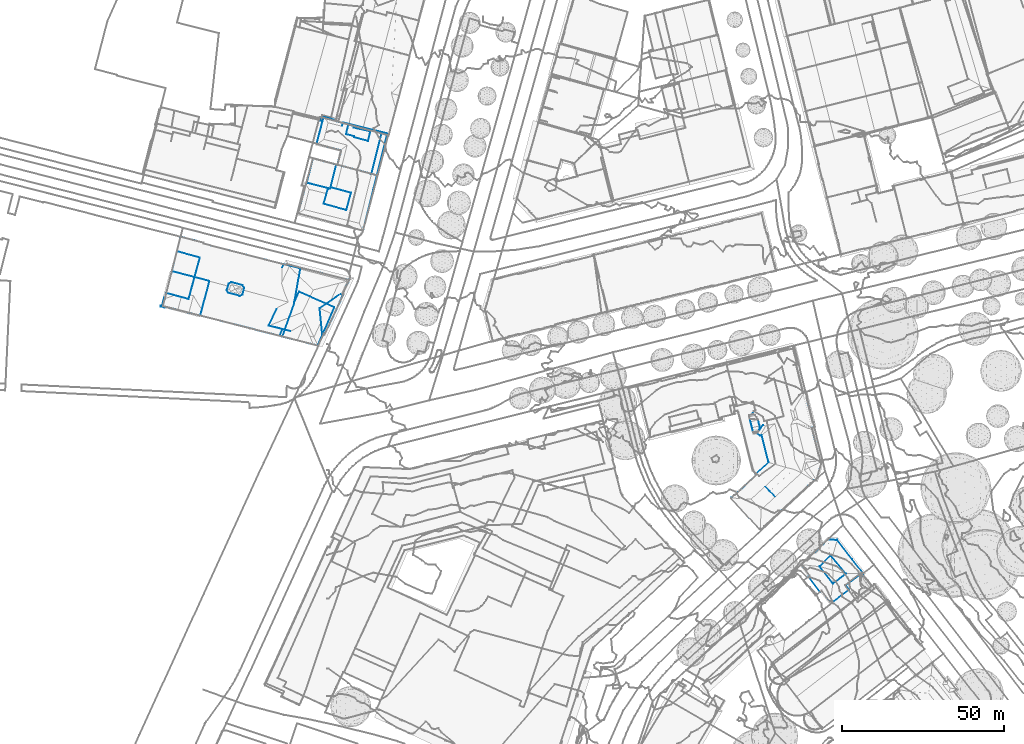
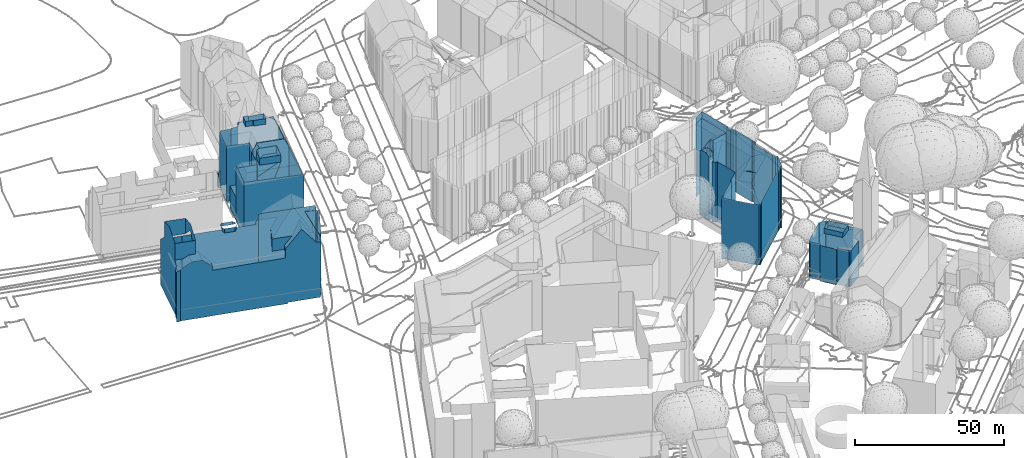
# Not in any storey, part 26 of 494: 5 walls.
"""IFC2X3 model written with IfcOpenShell, lengths in metres."""

from ifc_helpers import new_model, si_unit, frame, origin_with_axes, place, context, subcontext, project, faceted_brep, element, save


model = new_model("IFC2X3")

# Units and contexts
model_context = context("Model", 3, precision=1e-05, world=origin_with_axes())
body_context = subcontext(model_context, "Body", "Model", "MODEL_VIEW")
ifc_project = project(units=[si_unit("AREAUNIT", "SQUARE_METRE"), si_unit("LENGTHUNIT", "METRE")], contexts=[model_context])

# Walls
wall_1_placement = place(None, frame((124.1537320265, 278.7713160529, 533.7988), z_axis=(0.0, 0.0, 1.0), x_axis=(1.0, 0.0, 0.0)))
element("IfcWall", 1, at=wall_1_placement, Name="Wall 0", context=body_context, shape_type="Brep", body=[
    faceted_brep([(8.6400000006, 20.7793000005, 26.2145), (8.6400000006, 20.7793000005, 26.5365), (6.8839999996, 20.3486000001, 26.5365), (6.8839999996, 20.3486000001, 0.8999), (8.6400000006, 20.7793000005, 0.8999), (5.8379999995, 24.5194999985, 27.2494), (8.3839999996, 24.2577999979, 27.2494), (5.8379999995, 24.5194999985, 0.8999), (8.3839999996, 24.2577999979, 27.7623), (8.6110000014, 23.3515999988, 27.7623), (8.8500000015, 22.3935000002, 27.7623), (8.8500000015, 22.3935000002, 27.2444), (25.7060000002, 5.4472999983, 24.6966), (25.6669999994, 5.4101999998, 0.0), (25.7080000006, 5.4492000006, 0.0), (25.6680999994, 5.4111999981, 24.7236), (10.4050000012, -8.7324000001, 0.0), (10.4050000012, -8.7324000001, 24.5256), (9.2769999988, -9.7675999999, 24.5196), (10.3370000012, -8.6592000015, 0.0), (24.6689999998, 4.623999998, 0.0), (21.0810000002, 1.2987999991, 24.7846), (13.9200000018, -5.3388999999, 24.6896), (24.7369999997, 4.5517999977, 0.0), (24.7369999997, 4.5516999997, 24.7136), (24.6689999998, 4.623999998, 24.8316), (9.0230000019, -9.4922000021, 24.8956), (8.8770000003, -9.6279000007, 24.6596), (9.0230000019, -9.4922000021, 0.0), (8.8768999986, -9.6279999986, 0.0), (7.9499999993, 7.192400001, 24.9436), (7.6840000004, 7.4794999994, 24.4946), (7.6840000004, 7.4794999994, 0.0), (7.9499999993, 7.192400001, 0.0), (2.811999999, 2.442400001, 24.9996), (1.0989999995, 0.8583999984, 0.0), (1.0260000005, 0.9375, 24.8956), (1.0989999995, 0.8583999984, 25.0186), (11.6229999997, 11.0702999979, 0.0), (11.6229999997, 11.0702999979, 24.4946), (8.313000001, 20.2421999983, 25.1776), (9.8839999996, 22.6532999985, 0.0), (8.313000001, 20.2421999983, 0.0), (7.7589999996, 20.1035000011, 24.4947), (7.7589999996, 20.1035000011, 0.0), (8.9629999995, 19.3300999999, 24.4947), (8.9629999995, 19.3300999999, 0.0), (9.5139999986, 19.4697000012, 24.4947), (9.5139999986, 19.4697000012, 0.0), (23.6359999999, 31.1532999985, 0.0), (23.5590000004, 31.1347999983, 25.1276), (23.4990000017, 31.1191000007, 9.3641), (23.3920000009, 31.0936999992, 0.0), (23.3920999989, 31.0938000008, 25.3526), (27.6420000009, 11.7881000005, 12.3648), (27.6339999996, 11.817400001, 0.0), (27.6420000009, 11.7881000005, 18.5572), (27.6420000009, 11.7881999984, 6.1734), (27.6420000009, 11.7881999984, 0.0), (27.2969999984, 13.1669999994, 0.0), (27.6339999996, 11.8183999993, 24.7686), (25.8729999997, 5.6015999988, 0.0), (25.756000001, 5.4921999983, 24.8166), (25.7569999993, 5.4932000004, 0.0), (26.3920000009, 5.4472999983, 25.1006), (25.8729999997, 5.6015999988, 25.1016), (26.3920000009, 5.4472999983, 18.8252), (26.3920000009, 5.4472999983, 12.5498), (26.3920000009, 5.4472999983, 0.0), (16.3480000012, 25.2978000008, 30.2961), (13.4299999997, 36.9188999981, 30.2961), (16.3480000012, 25.2978000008, 0.0), (15.8280000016, 40.6669999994, 29.9172), (18.7740000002, 28.9307000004, 29.9171), (15.8280000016, 40.6669999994, 0.0), (11.8619999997, 37.8427999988, 30.2961), (11.8619999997, 37.8427999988, 0.0), (10.4750000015, 35.365199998, 29.9172), (10.4750000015, 35.365199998, 0.0), (13.4299999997, 36.9188999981, 0.0), (21.1400000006, 31.8506000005, 26.4205), (18.7740000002, 28.9307000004, 0.0), (22.2650000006, 32.7509999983, 0.0), (21.1400000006, 31.8506000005, 0.0), (22.2650000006, 32.7509999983, 24.8986), (10.324000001, 23.7841999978, 30.2961), (10.324000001, 23.7841999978, 0.0), (9.9919999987, 25.1123000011, 29.9171), (9.9919999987, 25.1123000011, 0.0), (9.8839999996, 22.6532999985, 29.9171), (8.6400000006, 20.7793000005, 0.0), (6.3269999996, 25.8104999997, 24.4947), (7.0700000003, 26.8691000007, 24.4947), (6.3269999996, 25.8104999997, 0.0), (6.8790000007, 25.9501999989, 25.1066), (6.8790000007, 25.9501999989, 0.0), (7.0700000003, 26.8691000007, 0.0), (7.4180000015, 25.6347999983, 26.1375), (7.4180000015, 25.6347999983, 0.0), (7.9239999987, 25.0429999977, 27.1874), (8.3839999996, 24.2577999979, 0.8999), (7.9239999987, 25.0429999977, 0.0), (8.3839999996, 24.2577999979, 0.0), (8.6090000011, 23.3574000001, 27.7623), (8.8220000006, 21.4697000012, 27.2004), (8.8220000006, 21.4697000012, 0.8999), (8.8500000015, 22.3935000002, 0.8999), (8.8220000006, 21.4697000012, 0.0), (13.6950000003, 0.4580000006, 29.9171), (12.0219999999, 2.2080000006, 30.2961), (12.0219999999, 2.2080000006, 29.9131), (10.5749999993, 3.7197000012, 29.9171), (9.2769999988, -9.7675999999, 0.0), (9.0610000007, -9.5331999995, 24.8946), (0.0, 0.0, 24.7636), (0.0, 0.0, 0.0), (1.0260999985, 0.9375, 12.3858), (0.0830000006, 0.0762000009, 24.8956), (0.4059999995, 0.371100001, 0.0), (1.0260000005, 0.9375, 0.0), (25.1449999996, 21.3720999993, 24.8716), (27.1799999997, 13.1367000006, 24.9086), (27.1799999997, 13.1367000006, 0.0), (25.061999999, 21.7089999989, 25.7385), (25.061999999, 21.7089999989, 0.0), (25.1449999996, 21.3720999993, 0.0), (25.9250000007, 21.9228999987, 0.0), (25.9250000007, 21.9228000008, 24.8976), (25.3029999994, 21.7685999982, 0.0), (25.3029999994, 21.7685999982, 25.7355), (25.5379999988, 23.4844000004, 25.0536), (25.8590000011, 22.1904000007, 25.0586), (25.5379999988, 23.4844000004, 0.0), (25.8590000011, 22.1904000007, 0.0), (25.2870000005, 23.4228000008, 25.3906), (25.2870000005, 23.4228999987, 0.0), (25.0020000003, 24.5751999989, 25.3856), (23.6359999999, 31.1532999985, 12.3488), (23.25, 32.7100000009, 0.0), (23.25, 32.7100000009, 24.9436), (23.2699999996, 32.6308999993, 0.0), (23.2699999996, 32.6308999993, 25.0196), (23.6359999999, 31.1532999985, 25.0256), (28.050999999, 11.6074000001, 0.0), (28.194000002, 11.5429999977, 0.0), (28.050999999, 11.6074000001, 25.1046), (28.194000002, 11.5429999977, 25.1116), (27.6830000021, 11.7705000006, 24.6986), (27.6420000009, 11.7881000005, 24.7496), (27.2969000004, 13.1669999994, 24.7666), (26.4330000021, 5.5878999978, 25.4005), (28.1480000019, 11.3887000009, 25.4025), (26.4330000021, 5.5878999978, 0.0), (28.1480000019, 11.3887000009, 0.0), (22.3310000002, 32.4833999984, 0.0), (22.3310000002, 32.4833999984, 25.5996), (22.6669999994, 32.566399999, 25.6035), (8.8500000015, 22.3935000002, 0.0), (8.6090000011, 23.3544999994, 0.0), (6.5179999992, 21.808600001, 0.8999), (6.7340000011, 20.9452999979, 0.8999), (6.0500000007, 23.6708999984, 0.8999), (6.7340000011, 20.9452999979, 27.2494), (6.5179999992, 21.808600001, 27.7623), (6.0500000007, 23.6708999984, 27.7623), (10.3370000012, -8.6592000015, 24.6426)], [[[0, 1, 2]], [[0, 3, 4]], [[5, 6, 7]], [[8, 6, 5]], [[9, 10, 11]], [[12, 13, 14]], [[12, 15, 13]], [[16, 17, 18]], [[17, 16, 19]], [[19, 20, 21]], [[22, 19, 21]], [[23, 24, 20]], [[24, 25, 20]], [[15, 24, 13]], [[26, 27, 28]], [[27, 29, 28]], [[30, 31, 32]], [[30, 32, 33]], [[34, 30, 35]], [[36, 37, 35]], [[38, 31, 39]], [[38, 32, 31]], [[40, 41, 42]], [[43, 42, 44]], [[45, 43, 46]], [[39, 47, 38]], [[47, 45, 48]], [[49, 50, 51]], [[52, 51, 53]], [[51, 52, 49]], [[54, 55, 56]], [[57, 58, 55]], [[59, 60, 55]], [[61, 62, 63]], [[64, 65, 66]], [[67, 66, 65]], [[68, 67, 61]], [[63, 12, 14]], [[69, 70, 71]], [[72, 73, 74]], [[75, 72, 76]], [[77, 76, 78]], [[70, 77, 79]], [[73, 80, 81]], [[80, 82, 83]], [[84, 82, 80]], [[85, 69, 86]], [[87, 86, 88]], [[89, 0, 41]], [[4, 90, 41]], [[91, 92, 93]], [[94, 91, 95]], [[92, 88, 96]], [[97, 94, 98]], [[6, 99, 100]], [[100, 101, 102]], [[99, 97, 101]], [[8, 103, 6]], [[104, 1, 0]], [[10, 104, 11]], [[105, 106, 107]], [[90, 4, 105]], [[105, 107, 90]], [[108, 109, 110]], [[111, 110, 109]], [[112, 18, 26]], [[26, 28, 112]], [[18, 113, 26]], [[29, 27, 114]], [[114, 115, 29]], [[116, 114, 117]], [[114, 116, 115]], [[117, 36, 116]], [[118, 116, 119]], [[118, 115, 116]], [[120, 121, 122]], [[123, 120, 124]], [[125, 124, 120]], [[122, 125, 120]], [[126, 127, 128]], [[128, 127, 129]], [[124, 129, 123]], [[129, 124, 128]], [[130, 131, 127]], [[130, 127, 132]], [[133, 132, 127]], [[126, 133, 127]], [[134, 130, 132]], [[132, 135, 134]], [[136, 52, 53]], [[136, 135, 52]], [[134, 135, 136]], [[137, 138, 139]], [[137, 140, 138]], [[139, 141, 137]], [[137, 141, 142]], [[49, 140, 137]], [[143, 57, 144]], [[143, 58, 57]], [[57, 54, 144]], [[56, 145, 146]], [[56, 147, 145]], [[56, 144, 54]], [[147, 56, 148]], [[56, 146, 144]], [[149, 122, 121]], [[59, 122, 149]], [[150, 64, 151]], [[151, 66, 146]], [[66, 151, 64]], [[146, 66, 67]], [[67, 68, 152]], [[67, 153, 144]], [[153, 67, 152]], [[67, 144, 146]], [[154, 155, 156]], [[138, 154, 156]], [[138, 156, 139]], [[157, 106, 100]], [[158, 100, 102]], [[100, 158, 157]], [[159, 160, 2]], [[161, 159, 2]], [[7, 161, 2]], [[160, 3, 2]], [[2, 162, 5]], [[163, 164, 5]], [[163, 5, 162]], [[2, 5, 7]], [[2, 3, 0]], [[6, 100, 7]], [[18, 112, 16]], [[165, 17, 19]], [[20, 25, 21]], [[165, 19, 22]], [[24, 23, 13]], [[34, 35, 37]], [[30, 33, 35]], [[116, 36, 35]], [[35, 119, 116]], [[89, 41, 40]], [[40, 42, 43]], [[43, 44, 46]], [[47, 48, 38]], [[45, 46, 48]], [[50, 53, 51]], [[137, 142, 50]], [[50, 49, 137]], [[60, 148, 55]], [[55, 148, 56]], [[54, 57, 55]], [[60, 59, 149]], [[65, 62, 61]], [[65, 61, 67]], [[12, 63, 62]], [[70, 79, 71]], [[73, 81, 74]], [[72, 74, 76]], [[75, 76, 77]], [[77, 78, 79]], [[80, 83, 81]], [[82, 84, 154]], [[84, 155, 154]], [[69, 71, 86]], [[85, 86, 87]], [[0, 4, 41]], [[92, 96, 93]], [[91, 93, 95]], [[87, 88, 92]], [[94, 95, 98]], [[99, 101, 100]], [[97, 98, 101]], [[106, 157, 107]]]),
])
wall_2_placement = place(None, frame((145.991732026, 258.2215160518, 530.886), z_axis=(0.0, 0.0, 1.0), x_axis=(1.0, 0.0, 0.0)))
element("IfcWall", 2, at=wall_2_placement, Name="Wall 0", context=body_context, shape_type="Brep", body=[
    faceted_brep([(13.7259999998, -2.8378999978, 18.4752), (13.0780000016, -3.3262000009, 16.3994), (13.7259999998, -2.8378999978, 16.3534), (9.7340000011, -5.8476999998, 18.4752), (10.2470000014, -5.4609000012, 16.4014), (9.7340000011, -5.8476999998, 16.3984), (5.569000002, -0.5507999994, 18.4752), (6.2950000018, 0.1561999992, 16.3314), (5.569000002, -0.5507999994, 16.3374), (9.0309999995, 2.822300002, 18.4752), (8.743999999, 2.5430000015, 16.3024), (9.0309999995, 2.822300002, 16.2155), (9.6840000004, -5.7841999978, 16.4304), (6.2820000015, -1.4580000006, 16.3844), (5.6420000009, -0.6435999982, 16.3794), (9.4670000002, 2.2959000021, 16.4654), (12.8000000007, -1.7216999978, 16.4294), (9.1350000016, 2.697300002, 16.2485), (13.6390000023, -2.7324000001, 16.4104), (0.2190000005, -0.3838, 14.7896), (0.2950000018, -0.3125, 0.0), (0.2190000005, -0.3838, 0.0), (2.5810000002, -3.4189999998, 14.8016), (2.5810000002, -3.4189999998, 0.0), (2.1710000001, -3.7373000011, 0.0), (2.1710000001, -3.7373000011, 14.6026), (5.7950000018, -8.4600000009, 14.6036), (5.7950000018, -8.4600000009, 0.0), (6.2320000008, -8.120099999, 4.4236), (5.9680000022, -8.3251999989, 4.5666), (6.2320000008, -8.120099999, 14.8166), (6.2320000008, -8.120099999, 10.517), (6.2320000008, -8.120099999, 0.0), (0.0, 0.0, 3.6907), (0.2950000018, -0.3125, 14.8296), (0.0, 0.0, 0.0), (8.8980000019, -11.5449000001, 11.0929), (9.1539999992, -11.3466999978, 14.7946), (8.8980000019, -11.5449000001, 14.7916), (8.8980000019, -11.5449000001, 3.6956), (9.1539999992, -11.3466999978, 0.0), (8.8980000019, -11.5449000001, 0.0), (9.443, -11.7188000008, 0.0), (9.443, -11.7188000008, 14.6096), (14.557, -7.8554999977, 14.6396), (14.557, -7.8554999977, 0.0), (14.8000000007, -7.7851999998, 14.6056), (14.8000000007, -7.7851999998, 0.0), (13.7109999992, -6.4257999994, 15.2845), (13.7109999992, -6.4257999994, 0.0), (18.7769999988, -2.9628999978, 0.0), (18.7769999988, -2.9628999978, 10.723), (19.001000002, -3.2509999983, 3.9486), (19.1130000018, -3.3955000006, 14.5476), (19.1130000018, -3.3955000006, 0.0), (18.9869999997, -3.5205000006, 14.5446), (18.5789999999, -2.7753999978, 0.0), (18.9869999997, -3.5205000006, 0.0), (18.5789999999, -2.7753999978, 14.9356), (10.9620000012, 7.6942999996, 14.7736), (10.9790000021, 7.6709000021, 3.6957), (10.9620000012, 7.6942999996, 0.0), (10.8040000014, 7.5713, 14.8126), (10.8040000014, 7.5713, 0.0), (8.5329999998, 7.7754000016, 0.0), (8.8370000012, -11.4657999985, 14.8316), (8.4140000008, -10.9228999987, 14.8266), (19.0830000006, -2.7245999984, 0.0), (19.0830000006, -2.7245999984, 14.7816), (19.057, -2.745099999, 14.7936), (18.7769999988, -2.9628999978, 14.8066), (0.0, 0.0, 14.8126), (0.0500000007, 0.0469000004, 14.8386), (0.0, 0.0, 11.1059), (7.8339999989, 7.3916000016, 0.0), (8.3960000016, 7.9209000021, 7.3663), (8.3960000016, 7.9209000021, 11.069), (7.8339999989, 7.3916000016, 14.8386), (8.1720000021, 7.7098999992, 14.8376), (8.3960000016, 7.9209000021, 14.7716), (8.3960000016, 7.9209000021, 0.0), (10.9800000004, 7.6709000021, 11.084), (10.9800000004, 7.6699000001, 14.7796), (11.4350000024, 7.0879000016, 14.8096), (15.5980000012, 1.746100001, 0.0), (11.0199999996, 7.6191000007, 14.8066), (15.5980000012, 1.746100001, 14.7896), (11.4350000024, 7.0879000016, 0.0), (8.5329999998, 7.7754000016, 14.8096)], [[[0, 1, 2]], [[1, 0, 3]], [[4, 3, 5]], [[3, 4, 1]], [[6, 7, 8]], [[7, 6, 9]], [[10, 9, 11]], [[9, 10, 7]], [[3, 12, 5]], [[12, 3, 13]], [[13, 6, 14]], [[6, 13, 3]], [[8, 14, 6]], [[9, 15, 11]], [[15, 9, 16]], [[17, 11, 15]], [[16, 0, 18]], [[0, 16, 9]], [[2, 18, 0]], [[19, 20, 21]], [[22, 19, 23]], [[19, 21, 23]], [[24, 25, 22]], [[22, 23, 24]], [[26, 25, 27]], [[27, 25, 24]], [[28, 26, 29]], [[30, 26, 31]], [[32, 28, 29]], [[27, 29, 26]], [[29, 27, 32]], [[33, 20, 34]], [[20, 33, 35]], [[36, 37, 38]], [[39, 40, 36]], [[39, 41, 40]], [[42, 43, 40]], [[44, 42, 45]], [[42, 44, 43]], [[46, 45, 47]], [[48, 46, 49]], [[50, 51, 52]], [[53, 54, 52]], [[52, 54, 50]], [[55, 56, 57]], [[54, 53, 55]], [[57, 54, 55]], [[58, 49, 56]], [[59, 60, 61]], [[62, 61, 63]], [[62, 63, 64]], [[38, 65, 36]], [[39, 36, 31]], [[66, 36, 65]], [[66, 30, 31]], [[39, 28, 41]], [[39, 31, 28]], [[28, 32, 41]], [[36, 66, 31]], [[50, 67, 51]], [[68, 69, 51]], [[70, 51, 69]], [[68, 51, 67]], [[71, 72, 73]], [[35, 33, 74]], [[75, 33, 73]], [[76, 73, 72]], [[77, 78, 79]], [[79, 76, 77]], [[76, 75, 73]], [[74, 33, 75]], [[74, 75, 80]], [[72, 77, 76]], [[81, 82, 83]], [[84, 60, 81]], [[82, 85, 83]], [[86, 68, 84]], [[84, 81, 86]], [[61, 60, 87]], [[87, 60, 84]], [[68, 67, 84]], [[81, 83, 86]], [[19, 34, 20]], [[31, 26, 28]], [[34, 73, 33]], [[71, 73, 34]], [[40, 37, 36]], [[37, 40, 43]], [[44, 45, 46]], [[46, 47, 49]], [[70, 53, 51]], [[51, 53, 52]], [[58, 56, 55]], [[48, 49, 58]], [[59, 81, 60]], [[82, 81, 59]], [[59, 61, 62]], [[64, 88, 62]], [[76, 88, 64]], [[88, 76, 79]], [[75, 76, 64]], [[64, 80, 75]]]),
])
wall_3_placement = place(None, frame((-52.3232679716, 338.0819160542, 533.653), z_axis=(0.0, 0.0, 1.0), x_axis=(1.0, 0.0, 0.0)))
element("IfcWall", 3, at=wall_3_placement, Name="Wall 0", context=body_context, shape_type="Brep", body=[
    faceted_brep([(25.9210000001, 5.7498999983, 28.2473), (25.7249999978, 5.0252999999, 28.2463), (25.9210000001, 5.7498999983, 27.5864), (25.3789999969, 6.557599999, 28.2473), (25.3789999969, 6.557599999, 27.0214), (6.2289999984, 21.5037999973, 18.6293), (7.8369999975, 21.0936999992, 18.6153), (6.2289999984, 21.5037999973, 13.9847), (43.2639999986, 11.7244999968, 1.1769), (41.4179999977, 1.3250999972, 1.1769), (43.2639999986, 11.7244999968, 0.051), (41.4179999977, 1.3250999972, 0.5519), (41.3399999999, 0.8846999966, 0.5519), (41.3399999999, 0.8846999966, 0.051), (39.0649999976, 12.8387999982, 1.1769), (39.0649999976, 12.8387999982, 0.051), (39.0429999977, 12.7547999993, 0.051), (13.3539999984, 19.6571999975, 0.051), (13.3539999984, 19.6571999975, 18.5933), (13.2869999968, 19.3934999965, 0.051), (13.2869999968, 19.3934999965, 18.8322), (10.4239999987, 20.4334999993, 18.5933), (10.4239999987, 20.4334999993, 0.051), (21.8259999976, 7.5194999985, 28.2473), (21.8259999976, 7.5194999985, 27.0044), (1.1609999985, 2.6434999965, 0.0), (1.1609999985, 2.6434999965, 20.5351), (1.4229999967, 2.5770999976, 0.0), (1.4229999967, 2.5770999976, 10.345), (1.4229999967, 2.5770999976, 15.5165), (0.5379999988, 0.1307999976, 20.5591), (0.5379999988, 0.1307999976, 0.0), (0.0659999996, 0.2469999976, 0.0), (0.0659999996, 0.2469999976, 20.2811), (0.0, 0.0, 20.2811), (0.0, 0.0, 0.0), (1.2339999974, -0.3331000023, 21.011), (1.2339999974, -0.3331000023, 0.0), (1.2449999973, -0.0499000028, 15.7225), (1.2449999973, -0.0499000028, 20.976), (1.2449999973, -0.0499000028, 10.47), (1.2449999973, -0.0499000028, 0.0), (12.3039999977, -2.8438000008, 18.6792), (12.7779999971, -1.0557000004, 20.2811), (12.2969999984, -2.8692000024, 20.2811), (12.2960000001, -2.8712000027, 18.6522), (12.2960000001, -2.8712000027, 0.051), (15.1349999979, 7.8338999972, 0.0), (15.1349999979, 7.8338999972, 0.051), (5.0939999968, 17.0340999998, 28.9983), (12.175999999, 15.1170999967, 22.7199), (5.0939999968, 17.0340999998, 22.6869), (8.6959999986, 2.2694999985, 28.9982), (6.3899999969, 2.8944999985, 23.3848), (8.6959999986, 2.2694999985, 23.3848), (1.818, 4.1336999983, 28.9983), (4.3549999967, 3.4461999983, 22.1809), (1.818, 4.1336999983, 22.1929), (25.3599999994, 3.677699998, 28.2473), (24.5409999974, 3.2498999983, 28.2473), (25.3599999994, 3.677699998, 27.0374), (20.9469999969, 4.2049999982, 26.4985), (24.5409999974, 3.2498999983, 26.4975), (42.8319999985, 4.5037999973, 1.1769), (53.7879999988, -0.2413000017, 1.1769), (53.7879999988, -0.2413000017, 0.5519), (48.6349999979, -12.1417000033, 1.1769), (57.3829999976, 5.9461999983, 22.3178), (58.4109999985, 8.120099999, 1.1769), (58.4109999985, 8.120099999, 22.2489), (56.3909999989, 3.8485999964, 1.1769), (56.3909999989, 3.8485999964, 22.3838), (58.3759999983, 8.128899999, 17.0684), (58.3827999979, 8.1268999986, 1.1769), (58.3640000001, 8.1317999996, 22.3698), (39.117999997, 13.0457999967, 16.4264), (58.3640000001, 8.1317999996, 6.4754), (50.5529999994, -8.4932000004, 1.1769), (49.4579999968, -10.8018000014, 22.8588), (48.8029999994, -12.1846000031, 6.6033), (48.8029999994, -12.1846000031, 17.4743), (48.8029999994, -12.1846000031, 22.9068), (48.8029999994, -12.1846000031, 12.0418), (48.8029999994, -12.1846000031, 1.1769), (37.7029999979, -9.3536000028, 0.051), (37.7029999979, -9.3536000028, 0.5519), (36.7739999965, -9.1153000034, 18.8612), (36.7739999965, -9.1153000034, 22.5208), (37.7039999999, -7.0235000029, 20.819), (37.7039999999, -7.0235000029, 22.5488), (20.9469999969, 4.2049999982, 28.2473), (20.5059999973, 4.9930999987, 27.0604), (20.5059999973, 4.9930999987, 28.2473), (20.8640000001, 6.3143999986, 28.2463), (21.0669999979, 7.0662999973, 28.2473), (21.0669999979, 7.0662999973, 27.5604), (3.5389999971, 10.9090999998, 0.0), (3.5389999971, 10.9090999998, 0.051), (10.4619999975, 8.7899999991, 31.225), (10.5339999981, 9.0535999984, 28.2463), (12.175999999, 15.1170999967, 28.9983), (9.0659999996, 3.6356999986, 23.3848), (42.8319999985, 4.5037999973, 0.5519), (3.4809999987, 10.6805999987, 31.225), (1.3909999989, 2.4520999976, 20.69), (1.4229999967, 2.5770999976, 20.689), (6.2289999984, 21.5037999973, 9.3401), (6.2289999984, 21.5037999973, 0.051), (42.2589999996, -10.5167000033, 29.5432), (47.1309999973, -11.7579000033, 23.3067), (48.060999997, -11.9952000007, 23.1947), (37.7029999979, -9.3536000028, 18.8682), (31.6529999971, -7.8106000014, 18.8172), (48.7039999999, -12.1592000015, 23.1648), (48.7039999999, -12.1592000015, 1.1769), (42.2589999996, -10.5167000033, 0.5519), (8.7599999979, -1.9669000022, 23.3848), (5.3329999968, -1.0928000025, 23.3848), (8.7599999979, -1.9669000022, 0.0), (5.3329999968, -1.0928000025, 0.0), (21.5749999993, -5.2383000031, 18.7312), (48.6349999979, -12.1417000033, 0.5519), (12.2969999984, -2.8692000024, 0.0), (38.0779999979, 13.0037999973, 19.6121), (38.561999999, 12.8787999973, 20.649), (38.0779999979, 13.0037999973, 18.6762), (50.5529999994, -8.4932000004, 20.233), (50.5529999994, -8.4932000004, 24.0107), (50.4100000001, -8.7950000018, 22.7898), (50.4100000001, -8.7950000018, 23.7887), (50.8229999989, -8.6231000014, 1.1769), (39.117999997, 13.0457999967, 21.5609), (39.5859999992, 12.9266999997, 22.5638), (39.117999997, 13.0457999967, 6.1844), (39.117999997, 13.0457999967, 1.1769), (39.5859999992, 12.9266999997, 1.1769), (53.6739999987, -2.5801000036, 28.4053), (53.4799999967, -2.9932000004, 28.1063), (53.8049999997, -2.3028000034, 28.1913), (54.5039999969, -0.822300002, 27.0314), (54.5039999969, -0.822300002, 21.7809), (52.2799999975, -5.5352000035, 21.9189), (50.8229999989, -8.6231000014, 23.9907), (39.0429999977, 12.7547999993, 21.6799), (54.8989999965, 0.0155999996, 15.7775), (55.1939999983, 0.6405999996, 21.7379), (56.6509999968, 3.7284999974, 21.6479), (55.1939999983, 0.6405999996, 1.1769), (56.6509999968, 3.7284999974, 1.1769), (37.6169999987, 12.0243999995, 19.6121), (33.4780000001, -5.9571000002, 25.8345), (36.0079999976, -0.5821000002, 25.8345), (33.4780000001, -5.9571000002, 20.774), (56.3699999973, 3.4090999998, 21.9609), (56.3699999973, 3.4090999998, 23.7627), (55.8249999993, 3.6629999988, 23.5067), (55.5729999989, 3.7811999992, 23.8117), (50.1569999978, -8.6768000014, 23.5067), (50.0409999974, -8.6231000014, 23.8127), (50.0409999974, -8.6231000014, 23.6467), (49.2419999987, -0.5303000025, 28.2263), (49.2419999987, -0.5303000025, 28.4053), (52.6229999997, 1.7782999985, 25.8345), (55.3269999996, 3.6229999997, 23.9847), (49.6529999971, -4.6895000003, 25.8345), (40.2739999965, -7.6710000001, 25.8345), (8.5859999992, 20.9032999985, 0.051)], [[[0, 1, 2]], [[3, 2, 4]], [[5, 6, 7]], [[8, 9, 10]], [[10, 9, 11]], [[11, 12, 13]], [[11, 13, 10]], [[14, 10, 15]], [[10, 14, 8]], [[15, 16, 14]], [[17, 18, 19]], [[20, 19, 18]], [[21, 18, 22]], [[22, 18, 17]], [[23, 4, 24]], [[25, 26, 27]], [[28, 26, 29]], [[30, 25, 31]], [[32, 33, 31]], [[30, 31, 33]], [[34, 32, 35]], [[36, 34, 37]], [[34, 35, 37]], [[37, 38, 39]], [[40, 37, 41]], [[36, 37, 39]], [[42, 43, 44]], [[44, 45, 42]], [[46, 47, 48]], [[49, 50, 51]], [[52, 53, 54]], [[53, 52, 55]], [[56, 55, 57]], [[55, 56, 53]], [[58, 59, 60]], [[59, 61, 62]], [[63, 64, 65]], [[64, 66, 65]], [[67, 68, 69]], [[67, 70, 68]], [[67, 71, 70]], [[72, 69, 73]], [[74, 69, 72]], [[75, 72, 76]], [[69, 68, 73]], [[77, 78, 79]], [[80, 78, 81]], [[82, 78, 80]], [[79, 83, 77]], [[13, 12, 84]], [[85, 84, 12]], [[86, 87, 88]], [[89, 88, 87]], [[1, 58, 60]], [[90, 91, 61]], [[92, 93, 91]], [[93, 94, 95]], [[95, 94, 23]], [[23, 24, 95]], [[96, 48, 47]], [[48, 96, 97]], [[98, 99, 100]], [[50, 100, 99]], [[99, 52, 101]], [[52, 99, 98]], [[54, 101, 52]], [[11, 9, 102]], [[63, 102, 9]], [[55, 103, 57]], [[29, 57, 51]], [[103, 51, 57]], [[104, 57, 105]], [[57, 29, 105]], [[28, 29, 7]], [[49, 51, 103]], [[51, 5, 7]], [[106, 97, 28]], [[28, 7, 106]], [[97, 106, 107]], [[27, 28, 97]], [[97, 96, 27]], [[7, 29, 51]], [[108, 87, 109]], [[109, 80, 110]], [[109, 87, 111]], [[111, 85, 82]], [[112, 85, 111]], [[86, 111, 87]], [[80, 109, 111]], [[113, 110, 81]], [[81, 110, 80]], [[82, 80, 111]], [[79, 66, 114]], [[115, 79, 82]], [[114, 83, 79]], [[115, 66, 79]], [[116, 117, 45]], [[45, 44, 116]], [[117, 38, 45]], [[39, 38, 117]], [[45, 40, 118]], [[38, 40, 45]], [[119, 40, 41]], [[85, 115, 82]], [[85, 120, 46]], [[121, 66, 115]], [[112, 120, 85]], [[46, 120, 45]], [[46, 84, 85]], [[122, 46, 118]], [[45, 118, 46]], [[40, 119, 118]], [[123, 124, 125]], [[126, 127, 128]], [[128, 127, 129]], [[127, 126, 130]], [[131, 132, 75]], [[75, 76, 133]], [[134, 133, 135]], [[132, 72, 75]], [[135, 76, 73]], [[135, 133, 76]], [[72, 132, 74]], [[136, 137, 138]], [[138, 137, 139]], [[139, 137, 140]], [[137, 141, 140]], [[141, 142, 130]], [[142, 141, 137]], [[20, 16, 19]], [[125, 16, 20]], [[124, 143, 16]], [[125, 124, 16]], [[126, 77, 130]], [[130, 144, 141]], [[145, 140, 144]], [[130, 146, 144]], [[141, 144, 140]], [[145, 144, 146]], [[147, 148, 146]], [[146, 130, 147]], [[16, 143, 131]], [[75, 16, 131]], [[133, 14, 75]], [[133, 134, 14]], [[149, 123, 125]], [[150, 151, 152]], [[153, 154, 139]], [[139, 140, 153]], [[155, 156, 154]], [[154, 153, 155]], [[129, 157, 128]], [[158, 159, 157]], [[158, 157, 129]], [[160, 161, 162]], [[163, 162, 161]], [[159, 158, 164]], [[164, 161, 160]], [[161, 164, 158]], [[89, 165, 150]], [[89, 152, 88]], [[152, 89, 150]], [[0, 2, 3]], [[106, 166, 107]], [[6, 106, 7]], [[6, 166, 106]], [[166, 6, 21]], [[166, 21, 22]], [[3, 4, 23]], [[26, 105, 29]], [[27, 26, 28]], [[26, 25, 30]], [[33, 32, 34]], [[40, 38, 37]], [[122, 47, 46]], [[100, 50, 49]], [[59, 62, 60]], [[90, 61, 59]], [[65, 102, 63]], [[66, 121, 65]], [[71, 148, 70]], [[148, 71, 146]], [[72, 73, 76]], [[78, 126, 128]], [[77, 126, 78]], [[79, 78, 82]], [[92, 91, 90]], [[130, 142, 127]], [[16, 75, 14]]]),
])
wall_4_placement = place(None, frame((-4.0472679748, 388.3377160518, 535.5509), z_axis=(0.0, 0.0, 1.0), x_axis=(1.0, 0.0, 0.0)))
element("IfcWall", 4, at=wall_4_placement, Name="Wall 0", context=body_context, shape_type="Brep", body=[
    faceted_brep([(8.0990000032, 6.4404000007, 23.7748), (7.870000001, 5.5166000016, 25.4786), (8.1500000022, 6.6464999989, 25.4786), (8.0990000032, 6.4404000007, 15.9275), (8.1500000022, 6.6464999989, 0.0001), (8.0990000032, 6.4404000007, 0.911), (8.0990000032, 6.4404000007, 0.0001), (1.1340000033, 8.3192999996, 7.0344), (2.1300000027, 8.0498000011, 7.0344), (1.1340000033, 8.3192999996, 0.819), (1.0980000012, 7.2334000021, 7.0344), (1.0980000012, 7.2334000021, 0.819), (1.8550000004, 7.0078000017, 7.0344), (1.8550000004, 7.0078000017, 0.819), (21.8859999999, 3.2362999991, 21.995), (18.6650000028, -9.7353000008, 21.9948), (21.8859999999, 3.2362999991, 0.0001), (20.1870000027, 3.6581999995, 25.4786), (16.9740000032, -9.2811999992, 25.4785), (20.1870000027, 3.6581999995, 25.2956), (6.7820000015, -5.3671999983, 8.4951), (6.4869999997, -6.4716999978, 17.0683), (6.4869999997, -6.4716999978, 22.8108), (6.4869999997, -6.4716999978, 11.3269), (6.4869999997, -6.4716999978, -0.0001), (7.6670000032, -2.0537, -0.0001), (7.6670000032, -2.0537, 17.2263), (7.6670000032, -2.0537, 22.9678), (7.6670000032, -2.0537, 11.4839), (7.6670000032, -2.0537, 5.7424), (0.0, 0.0, 19.1221), (1.5, 5.6689000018, 22.4989), (0.0, 0.0, 6.2254), (0.0, 0.0, 0.0), (1.2420000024, 4.6933999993, 0.0001), (2.2080000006, 8.3427999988, 22.5709), (2.1300000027, 8.0498000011, 0.819), (2.2080000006, 8.3427999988, 0.0001), (2.2080000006, 8.3427999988, 3.2248), (5.9570000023, 7.3311000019, 23.1499), (5.8900000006, 7.1132999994, 17.6334), (5.9570000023, 7.3311000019, 0.0001), (5.8670000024, 7.0419999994, 13.2808), (5.8900000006, 7.1132999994, 11.711), (5.8670000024, 7.0410000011, 23.6928), (5.8670000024, 7.0419999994, 5.4805), (5.8900000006, 7.1132999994, 5.7875), (5.8670000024, 7.0419000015, 0.819), (5.8669000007, 7.0406999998, 0.0001), (11.6750000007, 2.3682000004, 27.7023), (9.1510000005, 2.9882999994, 27.6224), (11.6750000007, 2.3682000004, 25.4785), (11.5090000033, 5.0390999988, 27.6224), (12.2939999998, 4.8467000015, 25.4786), (11.5090000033, 5.0390999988, 25.4786), (9.8790000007, 5.9600000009, 27.6224), (11.620000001, 5.4912, 25.4786), (9.8790000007, 5.9600000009, 25.4786), (9.5560000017, 4.9618999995, 25.4786), (9.1510000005, 2.9882999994, 25.4786), (11.620000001, 5.4912, 27.6224), (12.2939999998, 4.8467000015, 27.7024), (16.6560000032, 3.8612999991, 25.4786), (16.6560000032, 3.8612999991, 27.7824), (15.9140000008, 0.8984000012, 27.7823), (11.5880000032, 2.0604999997, 27.7823), (11.5880000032, 2.0604999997, 25.4785), (15.9140000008, 0.8984000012, 25.4785), (6.4250000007, 6.8905999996, 11.8259), (6.4250000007, 6.8905999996, 17.7694), (6.9830000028, 6.7402000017, 10.3601), (6.4250000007, 6.8905999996, 5.8825), (6.4250000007, 6.8905999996, 23.7128), (7.5410000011, 6.5898000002, 14.8387), (7.5410000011, 6.5898000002, 5.9235), (20.1870000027, 3.6581999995, 0.0001), (7.8080000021, -6.8262000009, 25.4785), (16.9740000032, -9.2811999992, 25.2955), (7.8080000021, -6.8262000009, -0.0001), (16.9740000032, -9.2811999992, -0.0001), (18.6650000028, -9.7353000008, -0.0001), (2.4630000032, 8.2743999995, 23.0179), (0.1579999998, -0.0419999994, 22.6238), (0.0, 0.0, 22.3468), (7.3990000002, -1.9824000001, 22.4248), (0.1579999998, -0.0419999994, 0.0), (9.5560000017, 4.9618999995, 27.6224)], [[[0, 1, 2]], [[3, 0, 2]], [[4, 3, 2]], [[4, 5, 3]], [[5, 4, 6]], [[7, 8, 9]], [[10, 7, 11]], [[12, 11, 13]], [[11, 12, 10]], [[14, 15, 16]], [[17, 18, 19]], [[20, 21, 22]], [[23, 20, 24]], [[20, 22, 25]], [[20, 25, 24]], [[26, 22, 27]], [[28, 22, 26]], [[22, 29, 25]], [[30, 31, 32]], [[32, 31, 33]], [[31, 34, 33]], [[31, 8, 12]], [[8, 31, 35]], [[31, 13, 34]], [[13, 31, 12]], [[13, 36, 34]], [[34, 36, 37]], [[38, 8, 35]], [[39, 40, 41]], [[40, 42, 43]], [[44, 42, 40]], [[43, 45, 46]], [[45, 47, 46]], [[47, 48, 46]], [[46, 48, 41]], [[49, 50, 51]], [[52, 53, 54]], [[55, 56, 57]], [[58, 55, 57]], [[50, 58, 59]], [[60, 52, 56]], [[61, 62, 53]], [[63, 64, 62]], [[65, 49, 66]], [[64, 65, 67]], [[68, 69, 70]], [[71, 68, 70]], [[42, 44, 69]], [[72, 70, 69]], [[68, 42, 69]], [[42, 68, 45]], [[71, 47, 45]], [[48, 47, 71]], [[71, 70, 48]], [[73, 0, 3]], [[73, 3, 74]], [[74, 3, 5]], [[70, 74, 6]], [[5, 6, 74]], [[70, 6, 48]], [[4, 2, 19]], [[19, 2, 17]], [[19, 14, 75]], [[16, 75, 14]], [[19, 75, 4]], [[18, 76, 21]], [[23, 77, 18]], [[23, 15, 77]], [[22, 21, 76]], [[23, 24, 78]], [[78, 15, 23]], [[79, 80, 15]], [[15, 78, 79]], [[18, 21, 23]], [[39, 41, 35]], [[41, 38, 35]], [[38, 41, 37]], [[39, 35, 81]], [[82, 83, 30]], [[82, 30, 84]], [[27, 84, 26]], [[26, 84, 30]], [[26, 30, 28]], [[32, 28, 30]], [[32, 29, 28]], [[85, 32, 33]], [[85, 25, 29]], [[29, 32, 85]], [[8, 36, 9]], [[7, 9, 11]], [[15, 80, 16]], [[18, 77, 19]], [[23, 21, 20]], [[28, 29, 22]], [[30, 83, 31]], [[36, 8, 38]], [[38, 37, 36]], [[41, 40, 43]], [[41, 43, 46]], [[44, 40, 39]], [[42, 45, 43]], [[50, 59, 51]], [[61, 53, 52]], [[60, 56, 55]], [[86, 55, 58]], [[86, 58, 50]], [[52, 54, 56]], [[63, 62, 61]], [[64, 67, 62]], [[49, 51, 66]], [[65, 66, 67]], [[70, 73, 74]], [[72, 69, 44]], [[0, 70, 72]], [[68, 71, 45]], [[70, 0, 73]]]),
])
wall_5_placement = place(None, frame((-9.7142679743, 366.807416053, 535.5508), z_axis=(0.0, 0.0, 1.0), x_axis=(1.0, 0.0, 0.0)))
element("IfcWall", 5, at=wall_5_placement, Name="Wall 0", context=body_context, shape_type="Brep", body=[
    faceted_brep([(20.0590000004, -5.3524999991, 5.5055), (20.3120000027, -4.3955000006, 21.9949), (20.0590000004, -5.3524999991, 22.0229), (24.3320000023, 11.7949000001, 21.9949), (20.3120000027, -4.3955000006, 0.0), (24.3320000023, 11.7949000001, 0.0), (9.8980000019, 7.7071000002, 0.057), (11.7369999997, 15.1103999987, 0.057), (9.8980000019, 7.7069999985, 0.0), (2.5439999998, 9.5331999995, 21.9949), (2.688000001, 9.4970999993, 9.5111), (2.5439999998, 9.5331999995, 0.0), (9.620000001, 7.7763999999, 21.9949), (2.688000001, 9.4970999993, 0.057), (16.3330000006, 6.3975000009, 28.3243), (14.876000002, 1.0830000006, 28.2603), (16.3330000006, 6.3975000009, 25.2956), (10.0859999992, 8.1035000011, 22.1559), (10.0859999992, 8.1035000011, 28.2203), (11.7250000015, 7.6552999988, 25.2956), (9.0879999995, 7.4023999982, 22.9159), (9.0879999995, 7.4023999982, 28.1973), (9.9770000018, 8.0273999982, 21.9949), (9.620000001, 7.7763999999, 9.5111), (7.8379999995, 3.0029999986, 25.2956), (7.8379999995, 3.0029999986, 28.1433), (8.7410000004, 6.1816999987, 25.2956), (14.876000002, 1.0830000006, 25.2956), (11.7369999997, 15.1103999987, 9.5111), (9.9770000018, 8.0273999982, 9.5111), (12.1390000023, 15.0018999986, 0.0), (12.1469999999, 15.0331999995, 11.383), (12.1539999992, 15.058600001, 0.0), (12.1539999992, 15.058600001, 5.6915), (12.1539999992, 15.058600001, 11.383), (4.5540000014, 17.0351999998, 9.5111), (20.0590000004, -5.3524999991, 0.0), (0.0, 0.0, 0.0), (19.9059999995, -5.3115000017, 22.3209), (0.0, 0.0, 22.8499), (4.5540000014, 17.0351999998, 0.057), (11.7369999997, 15.1103999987, 0.0), (12.1390000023, 15.0020000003, 22.7659), (11.7369999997, 15.1103999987, 21.9949), (2.3720000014, 8.8876999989, 23.2498), (0.0260000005, 0.0966999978, 22.9958), (2.3720000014, 8.8876999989, 0.0), (0.0260000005, 0.0966999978, 0.0), (13.4750000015, 14.7040999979, 0.0), (22.6410000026, 12.2480999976, 0.0), (12.1539999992, 15.058600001, 22.7669), (13.4750000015, 14.7040999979, 25.2956), (22.6410000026, 12.2480999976, 25.2956)], [[[0, 1, 2]], [[3, 4, 5]], [[4, 3, 1]], [[6, 7, 8]], [[9, 10, 11]], [[12, 10, 9]], [[11, 13, 8]], [[13, 11, 10]], [[8, 13, 6]], [[14, 15, 16]], [[17, 18, 19]], [[19, 14, 16]], [[14, 19, 18]], [[20, 21, 12]], [[12, 22, 23]], [[21, 18, 12]], [[18, 17, 22]], [[18, 22, 12]], [[24, 25, 26]], [[26, 21, 20]], [[21, 26, 25]], [[15, 25, 27]], [[22, 28, 29]], [[30, 31, 32]], [[33, 31, 34]], [[33, 32, 31]], [[10, 35, 13]], [[36, 0, 37]], [[0, 2, 37]], [[38, 39, 2]], [[39, 37, 2]], [[7, 40, 28]], [[41, 7, 30]], [[28, 30, 7]], [[28, 40, 35]], [[42, 30, 28]], [[28, 43, 42]], [[44, 9, 45]], [[39, 45, 9]], [[9, 46, 39]], [[47, 39, 46]], [[37, 39, 47]], [[46, 9, 11]], [[32, 33, 48]], [[33, 49, 48]], [[5, 49, 34]], [[49, 33, 34]], [[3, 50, 51]], [[3, 5, 50]], [[3, 51, 52]], [[50, 5, 34]], [[4, 1, 36]], [[36, 1, 0]], [[7, 41, 8]], [[23, 10, 12]], [[15, 27, 16]], [[22, 29, 23]], [[25, 24, 27]], [[43, 28, 22]], [[50, 31, 42]], [[30, 42, 31]], [[50, 34, 31]], [[35, 40, 13]]]),
])

save(model, "model.ifc")
